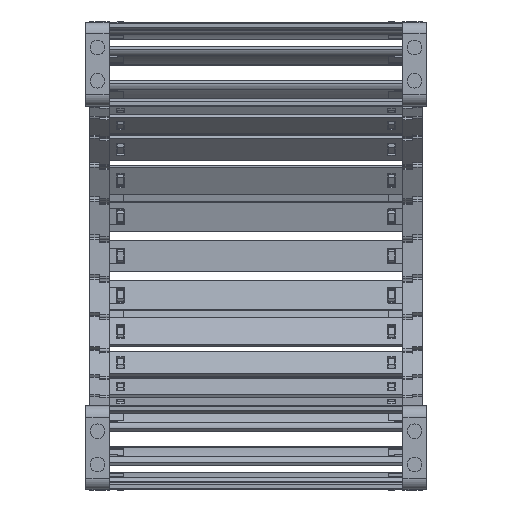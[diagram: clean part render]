
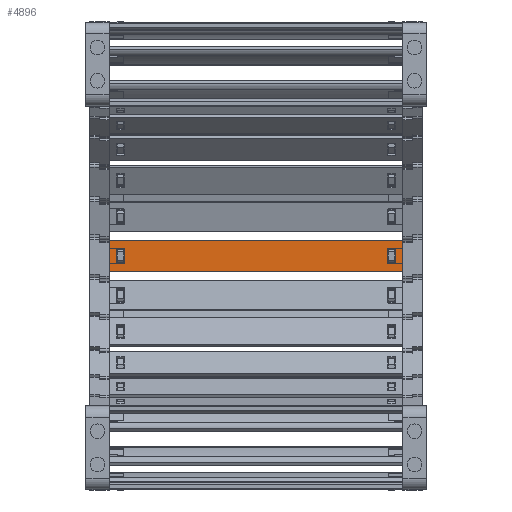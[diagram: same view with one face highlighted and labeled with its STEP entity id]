
A CAD part, left-side view. The second image highlights one B-rep face of the part: STEP entity #4896.
In plain terms, the highlighted planar face has unit normal (-1, 0, 0) as drawn and (0, 1, 0) by its records, which use the part's own axes.
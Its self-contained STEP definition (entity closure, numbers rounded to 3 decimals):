
#4022=DIRECTION('',(0.,0.,1.));
#4023=VECTOR('',#4022,15.8);
#4024=CARTESIAN_POINT('',(135.74,1.5,-7.9));
#4025=LINE('',#4024,#4023);
#4029=DIRECTION('',(-1.,0.,0.));
#4030=VECTOR('',#4029,150.5);
#4031=CARTESIAN_POINT('',(135.74,1.5,7.9));
#4032=LINE('',#4031,#4030);
#4036=DIRECTION('',(0.,0.,-1.));
#4037=VECTOR('',#4036,15.8);
#4038=CARTESIAN_POINT('',(-14.76,1.5,7.9));
#4039=LINE('',#4038,#4037);
#4043=DIRECTION('',(1.,0.,0.));
#4044=VECTOR('',#4043,3.648);
#4045=CARTESIAN_POINT('',(128.122,1.5,4.075));
#4046=LINE('',#4045,#4044);
#4050=DIRECTION('',(0.,0.,-1.));
#4051=VECTOR('',#4050,8.15);
#4052=CARTESIAN_POINT('',(131.77,1.5,4.075));
#4053=LINE('',#4052,#4051);
#4057=DIRECTION('',(-1.,0.,0.));
#4058=VECTOR('',#4057,3.648);
#4059=CARTESIAN_POINT('',(131.77,1.5,-4.075));
#4060=LINE('',#4059,#4058);
#4064=DIRECTION('',(0.,0.,-1.));
#4065=VECTOR('',#4064,8.15);
#4066=CARTESIAN_POINT('',(-7.142,1.5,4.075));
#4067=LINE('',#4066,#4065);
#4071=DIRECTION('',(-1.,0.,0.));
#4072=VECTOR('',#4071,3.648);
#4073=CARTESIAN_POINT('',(-7.142,1.5,-4.075));
#4074=LINE('',#4073,#4072);
#4078=DIRECTION('',(0.,0.,1.));
#4079=VECTOR('',#4078,8.15);
#4080=CARTESIAN_POINT('',(-10.79,1.5,-4.075));
#4081=LINE('',#4080,#4079);
#4085=DIRECTION('',(1.,0.,0.));
#4086=VECTOR('',#4085,3.648);
#4087=CARTESIAN_POINT('',(-10.79,1.5,4.075));
#4088=LINE('',#4087,#4086);
#4099=DIRECTION('',(-1.,0.,0.));
#4100=VECTOR('',#4099,150.5);
#4101=CARTESIAN_POINT('',(135.74,1.5,-7.9));
#4102=LINE('',#4101,#4100);
#4307=DIRECTION('',(0.,0.,-1.));
#4308=VECTOR('',#4307,8.15);
#4309=CARTESIAN_POINT('',(128.122,1.5,4.075));
#4310=LINE('',#4309,#4308);
#4606=CARTESIAN_POINT('',(131.77,1.5,4.075));
#4607=VERTEX_POINT('',#4606);
#4608=CARTESIAN_POINT('',(128.122,1.5,4.075));
#4609=VERTEX_POINT('',#4608);
#4650=CARTESIAN_POINT('',(128.122,1.5,-4.075));
#4651=VERTEX_POINT('',#4650);
#4652=CARTESIAN_POINT('',(131.77,1.5,-4.075));
#4653=VERTEX_POINT('',#4652);
#4654=CARTESIAN_POINT('',(135.74,1.5,7.9));
#4656=VERTEX_POINT('',#4654);
#4658=CARTESIAN_POINT('',(135.74,1.5,-7.9));
#4659=VERTEX_POINT('',#4658);
#4682=CARTESIAN_POINT('',(-7.142,1.5,4.075));
#4683=CARTESIAN_POINT('',(-7.142,1.5,-4.075));
#4684=VERTEX_POINT('',#4682);
#4685=VERTEX_POINT('',#4683);
#4686=CARTESIAN_POINT('',(-10.79,1.5,-4.075));
#4687=VERTEX_POINT('',#4686);
#4688=CARTESIAN_POINT('',(-10.79,1.5,4.075));
#4689=VERTEX_POINT('',#4688);
#4690=CARTESIAN_POINT('',(-14.76,1.5,7.9));
#4691=VERTEX_POINT('',#4690);
#4694=CARTESIAN_POINT('',(-14.76,1.5,-7.9));
#4695=VERTEX_POINT('',#4694);
#4865=CARTESIAN_POINT('',(167.48,1.5,10.061));
#4866=DIRECTION('',(0.,-1.,0.));
#4867=DIRECTION('',(0.,0.,-1.));
#4868=AXIS2_PLACEMENT_3D('',#4865,#4866,#4867);
#4869=PLANE('',#4868);
#4870=ORIENTED_EDGE('',*,*,#4768,.T.);
#4871=ORIENTED_EDGE('',*,*,#4806,.T.);
#4872=ORIENTED_EDGE('',*,*,#4831,.T.);
#4874=ORIENTED_EDGE('',*,*,#4873,.F.);
#4875=EDGE_LOOP('',(#4870,#4871,#4872,#4874));
#4876=FACE_OUTER_BOUND('',#4875,.F.);
#4878=ORIENTED_EDGE('',*,*,#4877,.F.);
#4879=ORIENTED_EDGE('',*,*,#4707,.T.);
#4881=ORIENTED_EDGE('',*,*,#4880,.T.);
#4883=ORIENTED_EDGE('',*,*,#4882,.T.);
#4884=EDGE_LOOP('',(#4878,#4879,#4881,#4883));
#4885=FACE_BOUND('',#4884,.F.);
#4887=ORIENTED_EDGE('',*,*,#4886,.T.);
#4889=ORIENTED_EDGE('',*,*,#4888,.T.);
#4891=ORIENTED_EDGE('',*,*,#4890,.T.);
#4893=ORIENTED_EDGE('',*,*,#4892,.T.);
#4894=EDGE_LOOP('',(#4887,#4889,#4891,#4893));
#4895=FACE_BOUND('',#4894,.F.);
#4896=ADVANCED_FACE('',(#4876,#4885,#4895),#4869,.F.);
#4707=EDGE_CURVE('',#4609,#4607,#4046,.T.);
#4768=EDGE_CURVE('',#4659,#4656,#4025,.T.);
#4806=EDGE_CURVE('',#4656,#4691,#4032,.T.);
#4831=EDGE_CURVE('',#4691,#4695,#4039,.T.);
#4873=EDGE_CURVE('',#4659,#4695,#4102,.T.);
#4877=EDGE_CURVE('',#4609,#4651,#4310,.T.);
#4880=EDGE_CURVE('',#4607,#4653,#4053,.T.);
#4882=EDGE_CURVE('',#4653,#4651,#4060,.T.);
#4886=EDGE_CURVE('',#4684,#4685,#4067,.T.);
#4888=EDGE_CURVE('',#4685,#4687,#4074,.T.);
#4890=EDGE_CURVE('',#4687,#4689,#4081,.T.);
#4892=EDGE_CURVE('',#4689,#4684,#4088,.T.);
